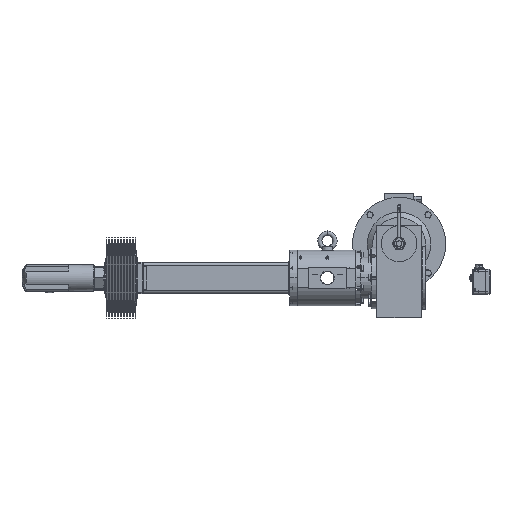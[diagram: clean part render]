
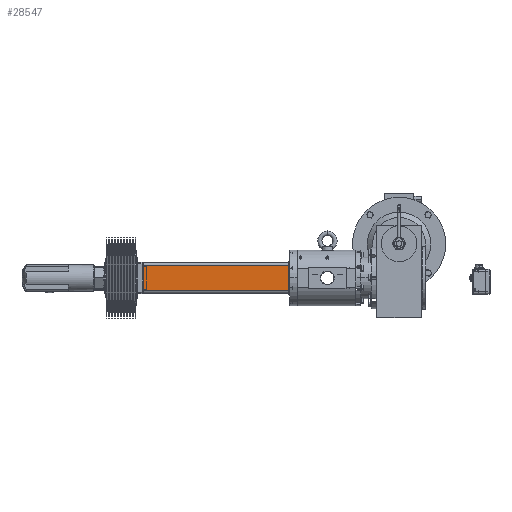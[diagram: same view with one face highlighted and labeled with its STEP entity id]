
A CAD part, top view. The second image highlights one B-rep face of the part: STEP entity #28547.
In plain terms, the highlighted planar face has unit normal (0, 0, 1).
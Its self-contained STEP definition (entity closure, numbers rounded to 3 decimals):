
#25155 = VERTEX_POINT ( 'NONE', #45722 ) ;
#25170 = VERTEX_POINT ( 'NONE', #45744 ) ;
#25180 = VERTEX_POINT ( 'NONE', #45759 ) ;
#25198 = VERTEX_POINT ( 'NONE', #45792 ) ;
#27403 = EDGE_LOOP ( 'NONE', ( #55469, #55471, #55473, #55475 ) ) ;
#28547 = ADVANCED_FACE ( 'NONE', ( #39822 ), #50461, .F. ) ;
#28926 = EDGE_CURVE ( 'NONE', #25170, #25155, #53621, .T. ) ;
#28951 = EDGE_CURVE ( 'NONE', #25155, #25180, #53658, .T. ) ;
#28965 = EDGE_CURVE ( 'NONE', #25170, #25198, #53683, .T. ) ;
#28966 = EDGE_CURVE ( 'NONE', #25198, #25180, #53681, .T. ) ;
#39822 = FACE_OUTER_BOUND ( 'NONE', #27403, .T. ) ;
#45722 = CARTESIAN_POINT ( 'NONE',  ( 480., -40., 50. ) ) ;
#45744 = CARTESIAN_POINT ( 'NONE',  ( 480., 40., 50. ) ) ;
#45759 = CARTESIAN_POINT ( 'NONE',  ( 2., -40., 50. ) ) ;
#45792 = CARTESIAN_POINT ( 'NONE',  ( 2., 40., 50. ) ) ;
#47660 = AXIS2_PLACEMENT_3D ( 'NONE', #50452, #50467, #50469 ) ;
#50452 = CARTESIAN_POINT ( 'NONE',  ( 480., 40., 50. ) ) ;
#50461 = PLANE ( 'NONE',  #47660 ) ;
#50467 = DIRECTION ( 'NONE',  ( 0., 0., -1. ) ) ;
#50469 = DIRECTION ( 'NONE',  ( -1., 0., 0. ) ) ;
#53621 = LINE ( 'NONE', #57773, #53623 ) ;
#53623 = VECTOR ( 'NONE', #57774, 1000. ) ;
#53658 = LINE ( 'NONE', #57842, #53661 ) ;
#53661 = VECTOR ( 'NONE', #57844, 1000. ) ;
#53681 = LINE ( 'NONE', #57873, #53687 ) ;
#53683 = LINE ( 'NONE', #57870, #53685 ) ;
#53685 = VECTOR ( 'NONE', #57867, 1000. ) ;
#53687 = VECTOR ( 'NONE', #57878, 1000. ) ;
#55469 = ORIENTED_EDGE ( 'NONE', *, *, #28965, .T. ) ;
#55471 = ORIENTED_EDGE ( 'NONE', *, *, #28966, .T. ) ;
#55473 = ORIENTED_EDGE ( 'NONE', *, *, #28951, .F. ) ;
#55475 = ORIENTED_EDGE ( 'NONE', *, *, #28926, .F. ) ;
#57773 = CARTESIAN_POINT ( 'NONE',  ( 480., 40., 50. ) ) ;
#57774 = DIRECTION ( 'NONE',  ( 0., -1., 0. ) ) ;
#57842 = CARTESIAN_POINT ( 'NONE',  ( 480., -40., 50. ) ) ;
#57844 = DIRECTION ( 'NONE',  ( -1., 0., 0. ) ) ;
#57867 = DIRECTION ( 'NONE',  ( -1., 0., 0. ) ) ;
#57870 = CARTESIAN_POINT ( 'NONE',  ( 480., 40., 50. ) ) ;
#57873 = CARTESIAN_POINT ( 'NONE',  ( 2., 40., 50. ) ) ;
#57878 = DIRECTION ( 'NONE',  ( 0., -1., 0. ) ) ;
